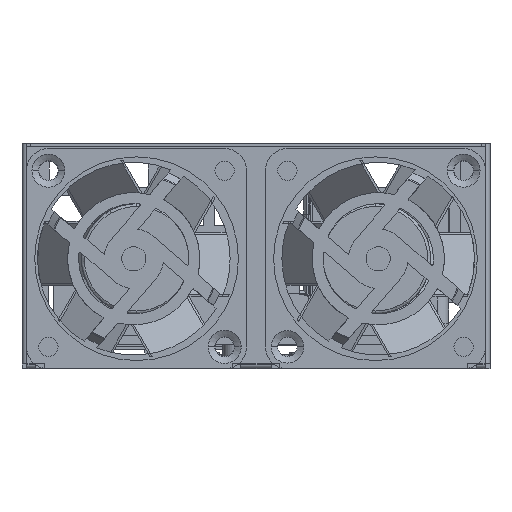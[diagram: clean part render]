
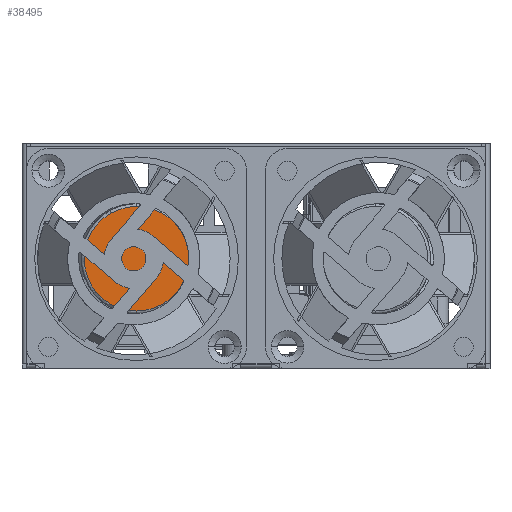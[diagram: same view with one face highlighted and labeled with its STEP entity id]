
A CAD part, front view. The second image highlights one B-rep face of the part: STEP entity #38495.
In plain terms, the highlighted planar face has unit normal (0, -1, 0) as drawn and (0, 0, 1) by its records, which use the part's own axes.
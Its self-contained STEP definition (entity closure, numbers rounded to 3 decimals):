
#36139=CARTESIAN_POINT('',(0.,0.,15.));
#36140=DIRECTION('',(0.,0.,1.));
#36141=DIRECTION('',(-1.,0.,0.));
#36142=AXIS2_PLACEMENT_3D('',#36139,#36140,#36141);
#36147=CARTESIAN_POINT('',(0.,0.,15.));
#36148=DIRECTION('',(0.,0.,1.));
#36149=DIRECTION('',(1.,0.,0.));
#36150=AXIS2_PLACEMENT_3D('',#36147,#36148,#36149);
#36885=CARTESIAN_POINT('',(9.5,0.,15.));
#36886=VERTEX_POINT('',#36885);
#36887=CARTESIAN_POINT('',(-9.5,0.,15.));
#36888=VERTEX_POINT('',#36887);
#38485=CARTESIAN_POINT('',(16.,-16.,15.));
#38486=DIRECTION('',(0.,0.,1.));
#38487=DIRECTION('',(1.,0.,0.));
#38488=AXIS2_PLACEMENT_3D('',#38485,#38486,#38487);
#38489=PLANE('',#38488);
#38490=ORIENTED_EDGE('',*,*,#38466,.F.);
#38492=ORIENTED_EDGE('',*,*,#38491,.F.);
#38493=EDGE_LOOP('',(#38490,#38492));
#38494=FACE_OUTER_BOUND('',#38493,.F.);
#36143=CIRCLE('',#36142,9.5);
#36151=CIRCLE('',#36150,9.5);
#38466=EDGE_CURVE('',#36888,#36886,#36143,.T.);
#38491=EDGE_CURVE('',#36886,#36888,#36151,.T.);
#38495=ADVANCED_FACE('',(#38494),#38489,.T.);
